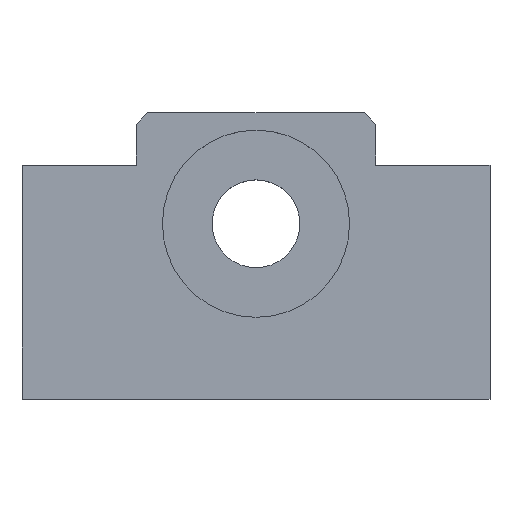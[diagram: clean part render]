
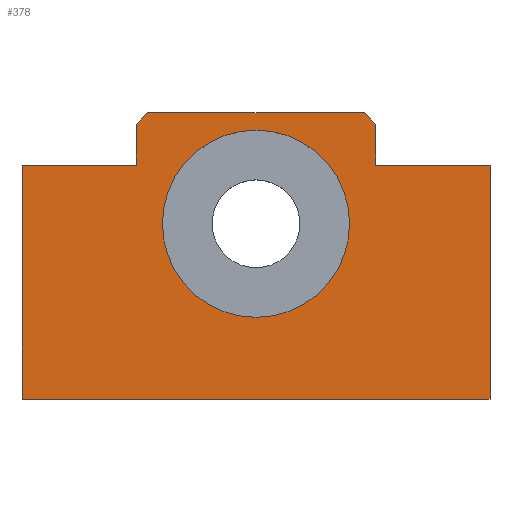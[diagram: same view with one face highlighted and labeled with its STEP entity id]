
A CAD part, top view. The second image highlights one B-rep face of the part: STEP entity #378.
In plain terms, the highlighted planar face has unit normal (0, 0, 1).
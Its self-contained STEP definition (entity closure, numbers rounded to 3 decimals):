
#42=FACE_BOUND($,#113,.T.);
#48=CIRCLE($,#396,16.);
#73=FACE_OUTER_BOUND($,#112,.T.);
#112=EDGE_LOOP($,(#329,#330,#331,#332,#333,#334,#335,#336,#337,#338));
#113=EDGE_LOOP($,(#339));
#114=LINE($,#529,#144);
#120=LINE($,#540,#150);
#129=LINE($,#562,#159);
#132=LINE($,#567,#162);
#135=LINE($,#610,#165);
#137=LINE($,#613,#167);
#138=LINE($,#615,#168);
#139=LINE($,#618,#169);
#141=LINE($,#622,#171);
#143=LINE($,#625,#173);
#144=VECTOR($,#423,2.828);
#150=VECTOR($,#431,7.);
#159=VECTOR($,#446,2.828);
#162=VECTOR($,#451,7.);
#165=VECTOR($,#504,40.);
#167=VECTOR($,#508,19.5);
#168=VECTOR($,#511,37.);
#169=VECTOR($,#514,19.5);
#171=VECTOR($,#518,40.);
#173=VECTOR($,#522,80.);
#174=VERTEX_POINT($,#527);
#175=VERTEX_POINT($,#528);
#179=VERTEX_POINT($,#538);
#188=VERTEX_POINT($,#560);
#189=VERTEX_POINT($,#561);
#190=VERTEX_POINT($,#566);
#195=VERTEX_POINT($,#581);
#204=VERTEX_POINT($,#607);
#205=VERTEX_POINT($,#609);
#206=VERTEX_POINT($,#617);
#207=VERTEX_POINT($,#621);
#208=EDGE_CURVE($,#174,#175,#114,.T.);
#214=EDGE_CURVE($,#174,#179,#120,.T.);
#224=EDGE_CURVE($,#188,#189,#129,.T.);
#227=EDGE_CURVE($,#190,#189,#132,.T.);
#233=EDGE_CURVE($,#195,#195,#48,.T.);
#243=EDGE_CURVE($,#205,#204,#135,.T.);
#245=EDGE_CURVE($,#179,#205,#137,.T.);
#246=EDGE_CURVE($,#188,#175,#138,.T.);
#247=EDGE_CURVE($,#206,#190,#139,.T.);
#249=EDGE_CURVE($,#207,#206,#141,.T.);
#251=EDGE_CURVE($,#204,#207,#143,.T.);
#329=ORIENTED_EDGE($,*,*,#208,.F.);
#330=ORIENTED_EDGE($,*,*,#214,.T.);
#331=ORIENTED_EDGE($,*,*,#245,.T.);
#332=ORIENTED_EDGE($,*,*,#243,.T.);
#333=ORIENTED_EDGE($,*,*,#251,.T.);
#334=ORIENTED_EDGE($,*,*,#249,.T.);
#335=ORIENTED_EDGE($,*,*,#247,.T.);
#336=ORIENTED_EDGE($,*,*,#227,.T.);
#337=ORIENTED_EDGE($,*,*,#224,.F.);
#338=ORIENTED_EDGE($,*,*,#246,.T.);
#339=ORIENTED_EDGE($,*,*,#233,.T.);
#355=PLANE($,#418);
#378=ADVANCED_FACE($,(#73,#42),#355,.T.);
#396=AXIS2_PLACEMENT_3D($,#582,#469,#470);
#418=AXIS2_PLACEMENT_3D($,#626,#523,#524);
#423=DIRECTION($,(0.707,0.707,0.));
#431=DIRECTION($,(0.,-1.,0.));
#446=DIRECTION($,(0.707,-0.707,0.));
#451=DIRECTION($,(0.,1.,0.));
#469=DIRECTION('center_axis',(0.,0.,-1.));
#470=DIRECTION('ref_axis',(-1.,0.,0.));
#504=DIRECTION($,(0.,-1.,0.));
#508=DIRECTION($,(-1.,0.,0.));
#511=DIRECTION($,(-1.,0.,0.));
#514=DIRECTION($,(-1.,0.,0.));
#518=DIRECTION($,(0.,1.,0.));
#522=DIRECTION($,(1.,0.,0.));
#523=DIRECTION('center_axis',(0.,0.,1.));
#524=DIRECTION('ref_axis',(1.,0.,0.));
#527=CARTESIAN_POINT('',(19.5,47.,20.));
#528=CARTESIAN_POINT('',(21.5,49.,20.));
#529=CARTESIAN_POINT($,(19.16,46.66,20.));
#538=CARTESIAN_POINT('',(19.5,40.,20.));
#540=CARTESIAN_POINT($,(19.5,49.,20.));
#560=CARTESIAN_POINT('',(58.5,49.,20.));
#561=CARTESIAN_POINT('',(60.5,47.,20.));
#562=CARTESIAN_POINT($,(60.84,46.66,20.));
#566=CARTESIAN_POINT('',(60.5,40.,20.));
#567=CARTESIAN_POINT($,(60.5,40.,20.));
#581=CARTESIAN_POINT('',(56.,30.,20.));
#582=CARTESIAN_POINT('Origin',(40.,30.,20.));
#607=CARTESIAN_POINT('',(0.,0.,20.));
#609=CARTESIAN_POINT('',(0.,40.,20.));
#610=CARTESIAN_POINT($,(0.,40.,20.));
#613=CARTESIAN_POINT($,(19.5,40.,20.));
#615=CARTESIAN_POINT($,(60.5,49.,20.));
#617=CARTESIAN_POINT('',(80.,40.,20.));
#618=CARTESIAN_POINT($,(80.,40.,20.));
#621=CARTESIAN_POINT('',(80.,0.,20.));
#622=CARTESIAN_POINT($,(80.,0.,20.));
#625=CARTESIAN_POINT($,(0.,0.,20.));
#626=CARTESIAN_POINT('Origin',(40.,23.14,20.));
